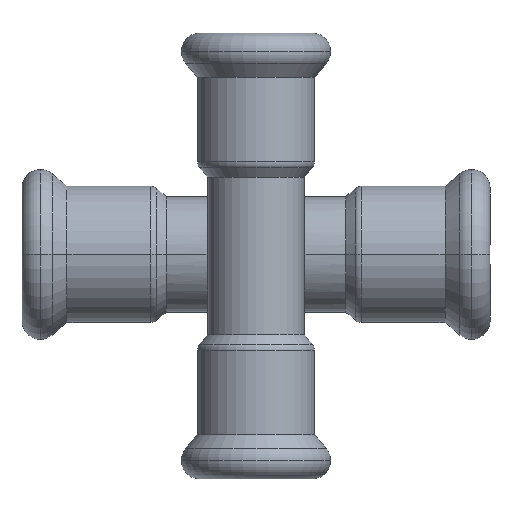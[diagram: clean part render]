
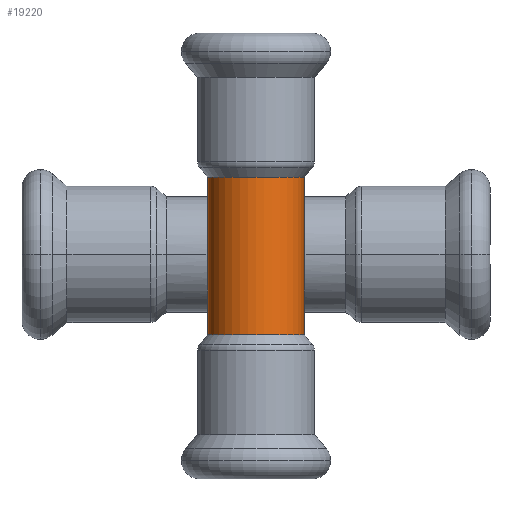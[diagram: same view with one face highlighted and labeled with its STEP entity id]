
A CAD part, left-side view. The second image highlights one B-rep face of the part: STEP entity #19220.
In plain terms, the highlighted cylindrical face has radius 7.5 mm (diameter 15 mm), a partial arc.
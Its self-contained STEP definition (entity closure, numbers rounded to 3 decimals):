
#3270=CARTESIAN_POINT('',(-88.693,26.409,0.));
#3280=VERTEX_POINT('',#3270);
#6600=CARTESIAN_POINT('',(-103.693,38.909,
0.));
#6610=VERTEX_POINT('',#6600);
#6700=CARTESIAN_POINT('',(-88.693,38.909,0.));
#6710=VERTEX_POINT('',#6700);
#6740=CARTESIAN_POINT('',(-96.193,38.909,0.));
#6750=DIRECTION('',(0.,-1.,0.));
#6760=DIRECTION('',(1.,0.,0.));
#6770=AXIS2_PLACEMENT_3D('',#6740,#6750,#6760);
#6780=CIRCLE('',#6770,7.5);
#6790=EDGE_CURVE('',#6710,#6610,#6780,.T.);
#17720=CARTESIAN_POINT('',(-103.693,14.409,
0.));
#17730=VERTEX_POINT('',#17720);
#17810=CARTESIAN_POINT('',(-88.693,14.409,
0.));
#17820=VERTEX_POINT('',#17810);
#17850=CARTESIAN_POINT('',(-96.193,14.409,0.));
#17860=DIRECTION('',(0.,-1.,0.));
#17870=DIRECTION('',(1.,0.,0.));
#17880=AXIS2_PLACEMENT_3D('',#17850,#17860,#17870);
#17890=CIRCLE('',#17880,7.5);
#18940=CARTESIAN_POINT('',(-96.193,13.909,0.));
#18950=DIRECTION('',(0.,-1.,0.));
#18960=DIRECTION('',(1.,0.,0.));
#18970=AXIS2_PLACEMENT_3D('',#18940,#18950,#18960);
#18980=CYLINDRICAL_SURFACE('',#18970,7.5);
#18990=CARTESIAN_POINT('',(-88.693,13.909,0.));
#19000=DIRECTION('',(0.,-1.,0.));
#19010=VECTOR('',#19000,1.);
#19020=LINE('',#18990,#19010);
#19030=EDGE_CURVE('',#6710,#3280,#19020,.T.);
#19040=ORIENTED_EDGE('',*,*,#19030,.F.);
#19050=EDGE_CURVE('',#3280,#17820,#19020,.T.);
#19060=ORIENTED_EDGE('',*,*,#19050,.F.);
#19070=EDGE_CURVE('',#17820,#17730,#17890,.T.);
#19080=ORIENTED_EDGE('',*,*,#19070,.F.);
#19090=CARTESIAN_POINT('',(-103.693,13.909,
0.));
#19100=DIRECTION('',(0.,-1.,0.));
#19110=VECTOR('',#19100,1.);
#19120=LINE('',#19090,#19110);
#19130=CARTESIAN_POINT('',(-103.693,26.409,
0.));
#19140=VERTEX_POINT('',#19130);
#19150=EDGE_CURVE('',#19140,#17730,#19120,.T.);
#19160=ORIENTED_EDGE('',*,*,#19150,.T.);
#19170=EDGE_CURVE('',#6610,#19140,#19120,.T.);
#19180=ORIENTED_EDGE('',*,*,#19170,.T.);
#19190=ORIENTED_EDGE('',*,*,#6790,.T.);
#19200=EDGE_LOOP('',(#19190,#19180,#19160,#19080,#19060,#19040));
#19210=FACE_OUTER_BOUND('',#19200,.T.);
#19220=ADVANCED_FACE('',(#19210),#18980,.T.);
